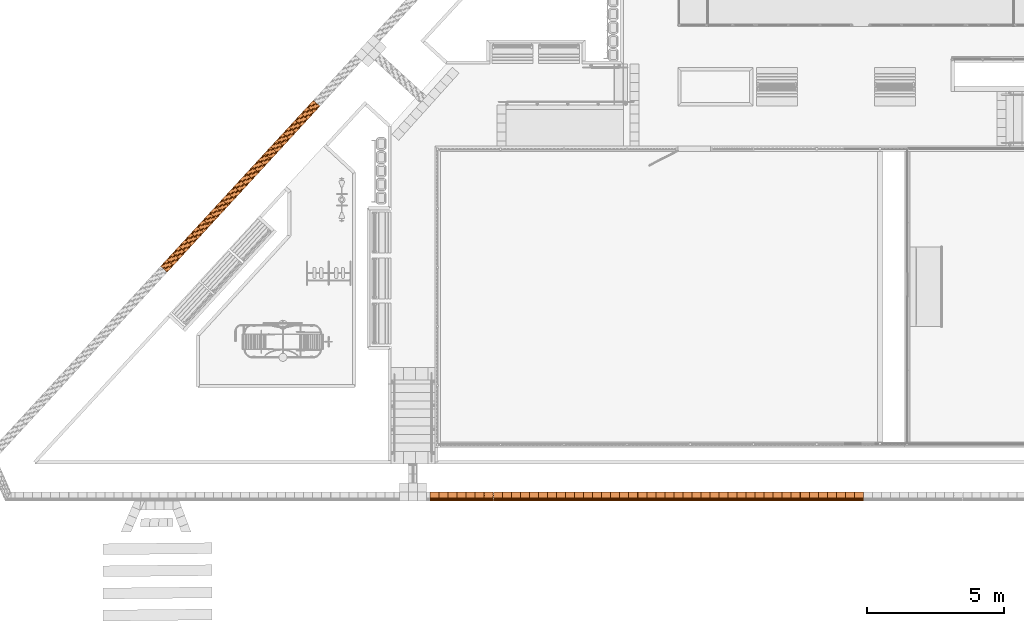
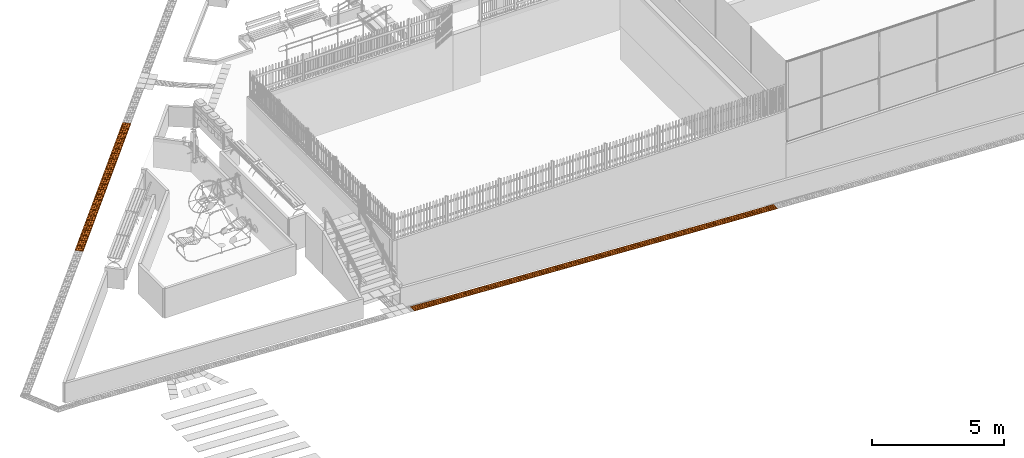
# One storey, part 165 of 237: 73 proxies.
"""IFC2X3 building model written with IfcOpenShell, lengths in millimetres."""

from ifc_helpers import new_model, entity, si_unit, converted_unit, derived_unit, money_unit, direction, frame, origin_with_axes, place, context, subcontext, project, spatial, open_shell, surface_model, source, transform, mapped, type_object, element, save


model = new_model("IFC2X3")

# Units and contexts
model_context = context("Model", 3, precision=0.01, world=origin_with_axes(), true_north=direction((0.0, 1.0)))
body_context = subcontext(model_context, "Body", "Model", "MODEL_VIEW")
ifc_project = project(units=[si_unit("LENGTHUNIT", "METRE", prefix="MILLI"), si_unit("AREAUNIT", "SQUARE_METRE"), si_unit("VOLUMEUNIT", "CUBIC_METRE"), converted_unit("PLANEANGLEUNIT", "DEGREE", entity("IfcPlaneAngleMeasure", 0.0174532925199), si_unit("PLANEANGLEUNIT", "RADIAN"), dimensions=[0, 0, 0, 0, 0, 0, 0]), money_unit("USD"), converted_unit("TIMEUNIT", "Year", entity("IfcTimeMeasure", 31556926.0), si_unit("TIMEUNIT", "SECOND"), dimensions=[0, 0, 1, 0, 0, 0, 0]), si_unit("MASSUNIT", "GRAM", prefix="KILO"), si_unit("THERMODYNAMICTEMPERATUREUNIT", "DEGREE_CELSIUS"), si_unit("LUMINOUSINTENSITYUNIT", "LUMEN"), si_unit("ENERGYUNIT", "JOULE", prefix="MEGA"), derived_unit("THERMALCONDUCTANCEUNIT", [(si_unit("POWERUNIT", "WATT"), 1), (si_unit("LENGTHUNIT", "METRE"), -1), (si_unit("THERMODYNAMICTEMPERATUREUNIT", "KELVIN"), -1)]), derived_unit("SPECIFICHEATCAPACITYUNIT", [(si_unit("ENERGYUNIT", "JOULE"), 1), (si_unit("MASSUNIT", "GRAM", prefix="KILO"), -1), (si_unit("THERMODYNAMICTEMPERATUREUNIT", "KELVIN"), -1)]), derived_unit("MASSDENSITYUNIT", [(si_unit("MASSUNIT", "GRAM", prefix="KILO"), 1), (si_unit("VOLUMEUNIT", "CUBIC_METRE"), -1)])], contexts=[model_context])

# Site, building, storey
site_placement = place(None, origin_with_axes())
site = spatial("IfcSite", under=ifc_project, at=site_placement, Name="Local", CompositionType="ELEMENT")
building_placement = place(site_placement, origin_with_axes())
building = spatial("IfcBuilding", under=site, at=building_placement, Name="Construção", CompositionType="ELEMENT")
storey_placement = place(building_placement, origin_with_axes())
storey = spatial("IfcBuildingStorey", under=building, at=storey_placement, Name="Pavimento Térreo", CompositionType="ELEMENT", Elevation=0.0)

# Proxies
building_element_proxy_type = type_object("IfcBuildingElementProxyType", Name="Piso Direcional 27", PredefinedType="NOTDEFINED")
shared_shape_1 = source(origin_with_axes(), body_context, "Body", "SurfaceModel", [
    surface_model("IfcShellBasedSurfaceModel", [(-0.196792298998, -47.258225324, 4.02371099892), (329.409233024, -47.258225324, 20.1441350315), (329.083567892, -41.665004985, 26.8028426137), (-0.522457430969, -41.665004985, 10.6824185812)], [open_shell([[[0, 1, 2, 3]]])]),
    surface_model("IfcShellBasedSurfaceModel", [(330.060563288, -153.529411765, 6.82671986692), (330.060563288, 176.470588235, 6.82671986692), (329.409233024, 176.470588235, 20.1441350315), (329.409233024, 154.097706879, 20.1441350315), (329.083567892, 148.50448654, 26.8028426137), (329.083567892, 126.131605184, 26.8028426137), (329.409233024, 120.538384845, 20.1441350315), (329.409233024, 70.1994017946, 20.1441350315), (329.083567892, 64.6061814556, 26.8028426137), (329.083567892, 42.2333000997, 26.8028426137), (329.409233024, 36.6400797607, 20.1441350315), (329.409233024, -13.6989032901, 20.1441350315), (329.083567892, -19.2921236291, 26.8028426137), (329.083567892, -41.665004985, 26.8028426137), (329.409233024, -47.258225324, 20.1441350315), (329.409233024, -97.5972083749, 20.1441350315), (329.083567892, -103.190428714, 26.8028426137), (329.083567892, -125.56331007, 26.8028426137), (329.409233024, -131.156530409, 20.1441350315), (329.409233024, -153.529411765, 20.1441350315)], [open_shell([[[0, 1, 2, 3, 4, 5, 6, 7, 8, 9, 10, 11, 12, 13, 14, 15, 16, 17, 18, 19]]])]),
    surface_model("IfcShellBasedSurfaceModel", [(-0.522457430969, -19.2921236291, 10.6824185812), (329.083567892, -19.2921236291, 26.8028426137), (329.409233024, -13.6989032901, 20.1441350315), (-0.196792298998, -13.6989032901, 4.02371099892)], [open_shell([[[0, 1, 2, 3]]])]),
    surface_model("IfcShellBasedSurfaceModel", [(-0.522457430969, -103.190428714, 10.6824185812), (329.083567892, -103.190428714, 26.8028426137), (329.409233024, -97.5972083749, 20.1441350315), (-0.196792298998, -97.5972083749, 4.02371099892)], [open_shell([[[0, 1, 2, 3]]])]),
    surface_model("IfcShellBasedSurfaceModel", [(-0.522457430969, 64.6061814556, 10.6824185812), (329.083567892, 64.6061814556, 26.8028426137), (329.409233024, 70.1994017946, 20.1441350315), (-0.196792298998, 70.1994017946, 4.02371099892)], [open_shell([[[0, 1, 2, 3]]])]),
    surface_model("IfcShellBasedSurfaceModel", [(-0.196792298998, 36.6400797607, 4.02371099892), (329.409233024, 36.6400797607, 20.1441350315), (329.083567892, 42.2333000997, 26.8028426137), (-0.522457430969, 42.2333000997, 10.6824185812)], [open_shell([[[0, 1, 2, 3]]])]),
    surface_model("IfcShellBasedSurfaceModel", [(-0.196792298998, -131.156530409, 4.02371099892), (329.409233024, -131.156530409, 20.1441350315), (329.083567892, -125.56331007, 26.8028426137), (-0.522457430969, -125.56331007, 10.6824185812)], [open_shell([[[0, 1, 2, 3]]])]),
    surface_model("IfcShellBasedSurfaceModel", [(-0.196792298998, 176.470588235, 4.02371099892), (-0.196792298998, 154.097706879, 4.02371099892), (329.409233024, 154.097706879, 20.1441350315), (329.409233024, 176.470588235, 20.1441350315)], [open_shell([[[0, 1, 2, 3]]])]),
    surface_model("IfcShellBasedSurfaceModel", [(-0.196792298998, 120.538384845, 4.02371099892), (329.409233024, 120.538384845, 20.1441350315), (329.083567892, 126.131605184, 26.8028426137), (-0.522457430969, 126.131605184, 10.6824185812)], [open_shell([[[0, 1, 2, 3]]])]),
    surface_model("IfcShellBasedSurfaceModel", [(-0.522457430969, 148.50448654, 10.6824185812), (329.083567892, 148.50448654, 26.8028426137), (329.409233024, 154.097706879, 20.1441350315), (-0.196792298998, 154.097706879, 4.02371099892)], [open_shell([[[0, 1, 2, 3]]])]),
    surface_model("IfcShellBasedSurfaceModel", [(-0.196792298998, 36.6400797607, 4.02371099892), (-0.196792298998, -13.6989032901, 4.02371099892), (329.409233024, -13.6989032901, 20.1441350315), (329.409233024, 36.6400797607, 20.1441350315)], [open_shell([[[0, 1, 2, 3]]])]),
    surface_model("IfcShellBasedSurfaceModel", [(-0.196792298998, 120.538384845, 4.02371099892), (-0.196792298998, 70.1994017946, 4.02371099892), (329.409233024, 70.1994017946, 20.1441350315), (329.409233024, 120.538384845, 20.1441350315)], [open_shell([[[0, 1, 2, 3]]])]),
    surface_model("IfcShellBasedSurfaceModel", [(-0.522457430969, 148.50448654, 10.6824185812), (-0.522457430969, 126.131605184, 10.6824185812), (329.083567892, 126.131605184, 26.8028426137), (329.083567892, 148.50448654, 26.8028426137)], [open_shell([[[0, 1, 2, 3]]])]),
    surface_model("IfcShellBasedSurfaceModel", [(-0.196792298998, 120.538384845, 4.02371099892), (-0.522457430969, 126.131605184, 10.6824185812), (-0.522457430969, 148.50448654, 10.6824185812), (-0.196792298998, 154.097706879, 4.02371099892), (-0.196792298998, 176.470588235, 4.02371099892), (0.454537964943, 176.470588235, -9.29370416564), (0.454537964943, -153.529411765, -9.29370416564), (-0.196792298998, -153.529411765, 4.02371099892), (-0.196792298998, -131.156530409, 4.02371099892), (-0.522457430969, -125.56331007, 10.6824185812), (-0.522457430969, -103.190428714, 10.6824185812), (-0.196792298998, -97.5972083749, 4.02371099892), (-0.196792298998, -47.258225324, 4.02371099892), (-0.522457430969, -41.665004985, 10.6824185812), (-0.522457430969, -19.2921236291, 10.6824185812), (-0.196792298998, -13.6989032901, 4.02371099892), (-0.196792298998, 36.6400797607, 4.02371099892), (-0.522457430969, 42.2333000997, 10.6824185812), (-0.522457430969, 64.6061814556, 10.6824185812), (-0.196792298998, 70.1994017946, 4.02371099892)], [open_shell([[[0, 1, 2, 3, 4, 5, 6, 7, 8, 9, 10, 11, 12, 13, 14, 15, 16, 17, 18, 19]]])]),
    surface_model("IfcShellBasedSurfaceModel", [(329.083567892, -41.665004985, 26.8028426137), (329.083567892, -19.2921236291, 26.8028426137), (-0.522457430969, -19.2921236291, 10.6824185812), (-0.522457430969, -41.665004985, 10.6824185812)], [open_shell([[[0, 1, 2, 3]]])]),
    surface_model("IfcShellBasedSurfaceModel", [(-0.196792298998, -47.258225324, 4.02371099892), (-0.196792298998, -97.5972083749, 4.02371099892), (329.409233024, -97.5972083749, 20.1441350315), (329.409233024, -47.258225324, 20.1441350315)], [open_shell([[[0, 1, 2, 3]]])]),
    surface_model("IfcShellBasedSurfaceModel", [(329.083567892, 42.2333000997, 26.8028426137), (329.083567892, 64.6061814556, 26.8028426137), (-0.522457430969, 64.6061814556, 10.6824185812), (-0.522457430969, 42.2333000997, 10.6824185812)], [open_shell([[[0, 1, 2, 3]]])]),
    surface_model("IfcShellBasedSurfaceModel", [(329.083567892, -125.56331007, 26.8028426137), (329.083567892, -103.190428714, 26.8028426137), (-0.522457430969, -103.190428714, 10.6824185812), (-0.522457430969, -125.56331007, 10.6824185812)], [open_shell([[[0, 1, 2, 3]]])]),
    surface_model("IfcShellBasedSurfaceModel", [(330.060563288, 176.470588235, 6.82671986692), (0.454537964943, 176.470588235, -9.29370416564), (-0.196792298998, 176.470588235, 4.02371099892), (329.409233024, 176.470588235, 20.1441350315)], [open_shell([[[0, 1, 2, 3]]])]),
    surface_model("IfcShellBasedSurfaceModel", [(330.060563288, -153.529411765, 6.82671986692), (0.454537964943, -153.529411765, -9.29370416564), (0.454537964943, 176.470588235, -9.29370416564), (330.060563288, 176.470588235, 6.82671986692)], [open_shell([[[0, 1, 2, 3]]])]),
    surface_model("IfcShellBasedSurfaceModel", [(329.409233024, -153.529411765, 20.1441350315), (329.409233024, -131.156530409, 20.1441350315), (-0.196792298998, -131.156530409, 4.02371099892), (-0.196792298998, -153.529411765, 4.02371099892)], [open_shell([[[0, 1, 2, 3]]])]),
    surface_model("IfcShellBasedSurfaceModel", [(0.454537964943, -153.529411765, -9.29370416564), (330.060563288, -153.529411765, 6.82671986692), (329.409233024, -153.529411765, 20.1441350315), (-0.196792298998, -153.529411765, 4.02371099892)], [open_shell([[[0, 1, 2, 3]]])]),
])
for number, where, z_axis, x_axis, name in (
    (1, (53889.0508566, 10834.0941893, -3763.26854948), (0.0, 0.0, 1.0), (-1.0, 0.0, 0.0), "Objeto-0055"),
    (2, (49922.5960196, 10834.0941893, -3557.23249376), (0.0, 0.0, 1.0), (-1.0, 0.0, 0.0), "Objeto-0055"),
    (3, (49261.3507811, 10834.0941893, -3522.70237891), (0.0, 0.0, 1.0), (-1.0, 0.0, 0.0), "Objeto-0055"),
    (4, (53227.8056181, 10834.0941893, -3728.73843462), (0.0, 0.0, 1.0), (-1.0, 0.0, 0.0), "Objeto-0055"),
    (5, (52897.1829989, 10834.0941893, -3711.4733772), (0.0, 0.0, 1.0), (-1.0, 0.0, 0.0), "Objeto-0055"),
    (6, (52566.5603796, 10834.0941893, -3694.20831977), (0.0, 0.0, 1.0), (-1.0, 0.0, 0.0), "Objeto-0055"),
    (7, (52235.9377604, 10834.0941893, -3676.94326235), (0.0, 0.0, 1.0), (-1.0, 0.0, 0.0), "Objeto-0055"),
    (8, (51905.3151412, 10834.0941893, -3659.67820492), (0.0, 0.0, 1.0), (-1.0, 0.0, 0.0), "Objeto-0055"),
    (9, (51244.0699027, 10834.0941893, -3625.14809007), (0.0, 0.0, 1.0), (-1.0, 0.0, 0.0), "Objeto-0055"),
    (10, (50913.4472834, 10834.0941893, -3607.88303264), (0.0, 0.0, 1.0), (-1.0, 0.0, 0.0), "Objeto-0055"),
    (11, (48269.4829234, 10834.0941893, -3470.90720663), (0.0, 0.0, 1.0), (-1.0, 0.0, 0.0), "Objeto-0055"),
    (12, (47938.8603042, 10834.0941893, -3453.6421492), (0.0, 0.0, 1.0), (-1.0, 0.0, 0.0), "Objeto-0055"),
    (13, (47608.2376849, 10834.0941893, -3436.37709178), (0.0, 0.0, 1.0), (-1.0, 0.0, 0.0), "Objeto-0055"),
    (14, (47277.6150657, 10834.0941893, -3419.11203435), (0.0, 0.0, 1.0), (-1.0, 0.0, 0.0), "Objeto-0055"),
    (15, (46946.9924465, 10834.0941893, -3401.84697693), (0.0, 0.0, 1.0), (-1.0, 0.0, 0.0), "Objeto-0055"),
    (16, (46616.3698272, 10834.0941893, -3384.5819195), (0.0, 0.0, 1.0), (-1.0, 0.0, 0.0), "Objeto-0055"),
    (17, (46285.747208, 10834.0941893, -3367.31686208), (0.0, 0.0, 1.0), (-1.0, 0.0, 0.0), "Objeto-0055"),
    (18, (45955.1245887, 10834.0941893, -3350.05180465), (0.0, 0.0, 1.0), (-1.0, 0.0, 0.0), "Objeto-0055"),
    (19, (57855.5036211, 10834.0941893, -3969.34697953), (0.0, 0.0, 1.0), (-1.0, 0.0, 0.0), "Objeto-0055"),
    (20, (45624.5019695, 10834.0941893, -3332.78674722), (0.0, 0.0, 1.0), (-1.0, 0.0, 0.0), "Objeto-0055"),
    (21, (45293.8793502, 10834.0941893, -3315.5216898), (0.0, 0.0, 1.0), (-1.0, 0.0, 0.0), "Objeto-0055"),
    (22, (44963.256731, 10834.0941893, -3298.25663237), (0.0, 0.0, 1.0), (-1.0, 0.0, 0.0), "Objeto-0055"),
    (23, (44632.6341118, 10834.0941893, -3280.99157495), (0.0, 0.0, 1.0), (-1.0, 0.0, 0.0), "Objeto-0055"),
    (24, (44302.0114925, 10834.0941893, -3263.72651752), (0.0, 0.0, 1.0), (-1.0, 0.0, 0.0), "Objeto-0055"),
    (25, (43971.3888733, 10834.0941893, -3246.4614601), (0.0, 0.0, 1.0), (-1.0, 0.0, 0.0), "Objeto-0055"),
    (26, (43641.782848, 10834.0941893, -3230.34103606), (0.0, 0.0, 1.0), (-1.0, 0.0, 0.0), "Objeto-0055"),
    (27, (43311.1602287, 10834.0941893, -3213.07597864), (0.0, 0.0, 1.0), (-1.0, 0.0, 0.0), "Objeto-0055"),
    (28, (42980.5376095, 10834.0941893, -3195.81092121), (0.0, 0.0, 1.0), (-1.0, 0.0, 0.0), "Objeto-0055"),
    (29, (42649.9149902, 10834.0941893, -3178.54586379), (0.0, 0.0, 1.0), (-1.0, 0.0, 0.0), "Objeto-0055"),
    (30, (42319.292371, 10834.0941893, -3161.28080636), (0.0, 0.0, 1.0), (-1.0, 0.0, 0.0), "Objeto-0055"),
    (31, (50253.2186389, 10834.0941893, -3574.49755119), (0.0, 0.0, 1.0), (-1.0, 0.0, 0.0), "Objeto-0055"),
    (32, (51574.6925219, 10834.0941893, -3642.41314749), (0.0, 0.0, 1.0), (-1.0, 0.0, 0.0), "Objeto-0055"),
    (33, (54550.2960951, 10834.0941893, -3797.79866433), (0.0, 0.0, 1.0), (-1.0, 0.0, 0.0), "Objeto-0055"),
    (34, (48600.1055427, 10834.0941893, -3488.17226406), (0.0, 0.0, 1.0), (-1.0, 0.0, 0.0), "Objeto-0055"),
    (35, (50582.8246642, 10834.0941893, -3590.61797522), (0.0, 0.0, 1.0), (-1.0, 0.0, 0.0), "Objeto-0055"),
    (36, (55211.5413336, 10834.0941893, -3832.32877918), (0.0, 0.0, 1.0), (-1.0, 0.0, 0.0), "Objeto-0055"),
    (37, (54880.9187143, 10834.0941893, -3815.06372175), (0.0, 0.0, 1.0), (-1.0, 0.0, 0.0), "Objeto-0055"),
    (38, (53558.4282374, 10834.0941893, -3746.00349205), (0.0, 0.0, 1.0), (-1.0, 0.0, 0.0), "Objeto-0055"),
    (39, (49591.9734004, 10834.0941893, -3539.96743633), (0.0, 0.0, 1.0), (-1.0, 0.0, 0.0), "Objeto-0055"),
    (40, (54219.6734758, 10834.0941893, -3780.5336069), (0.0, 0.0, 1.0), (-1.0, 0.0, 0.0), "Objeto-0055"),
    (41, (57194.2583827, 10834.0941893, -3934.81686468), (0.0, 0.0, 1.0), (-1.0, 0.0, 0.0), "Objeto-0055"),
    (42, (56864.6544298, 10834.0941893, -3918.65406631), (0.0, 0.0, 1.0), (-1.0, 0.0, 0.0), "Objeto-0055"),
    (43, (56534.0318105, 10834.0941893, -3901.38900888), (0.0, 0.0, 1.0), (-1.0, 0.0, 0.0), "Objeto-0055"),
    (44, (56203.4091913, 10834.0941893, -3884.12395146), (0.0, 0.0, 1.0), (-1.0, 0.0, 0.0), "Objeto-0055"),
    (45, (55872.7865721, 10834.0941893, -3866.85889403), (0.0, 0.0, 1.0), (-1.0, 0.0, 0.0), "Objeto-0055"),
    (46, (55542.1639528, 10834.0941893, -3849.5938366), (0.0, 0.0, 1.0), (-1.0, 0.0, 0.0), "Objeto-0055"),
    (47, (57524.8810019, 10834.0941893, -3952.08192211), (0.0, 0.0, 1.0), (-1.0, 0.0, 0.0), "Objeto-0055"),
    (48, (48930.7281619, 10834.0941893, -3505.43732148), (0.0, 0.0, 1.0), (-1.0, 0.0, 0.0), "Objeto-0055"),
):
    element("IfcBuildingElementProxy", number, at=place(storey_placement, frame(where, z_axis=z_axis, x_axis=x_axis)), inside=storey, type_object=building_element_proxy_type, Name=name, context=body_context, shape_type="MappedRepresentation", body=[
        mapped(shared_shape_1, transform((0.0, 0.0, 0.0))),
    ])
shared_shape_2 = source(origin_with_axes(), body_context, "Body", "SurfaceModel", [
    surface_model("IfcShellBasedSurfaceModel", [(0.126538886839, -47.258225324, 4.02653266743), (329.963703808, -47.258225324, -6.33901782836), (330.173108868, -41.665004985, 0.32435924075), (0.33594394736, -41.665004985, 10.6899097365)], [open_shell([[[0, 1, 2, 3]]])]),
    surface_model("IfcShellBasedSurfaceModel", [(329.544893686, -153.529411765, -19.6657719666), (329.544893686, 176.470588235, -19.6657719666), (329.963703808, 176.470588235, -6.33901782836), (329.963703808, 154.097706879, -6.33901782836), (330.173108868, 148.50448654, 0.32435924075), (330.173108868, 126.131605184, 0.32435924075), (329.963703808, 120.538384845, -6.33901782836), (329.963703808, 70.1994017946, -6.33901782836), (330.173108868, 64.6061814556, 0.32435924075), (330.173108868, 42.2333000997, 0.32435924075), (329.963703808, 36.6400797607, -6.33901782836), (329.963703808, -13.6989032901, -6.33901782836), (330.173108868, -19.2921236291, 0.32435924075), (330.173108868, -41.665004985, 0.32435924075), (329.963703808, -47.258225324, -6.33901782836), (329.963703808, -97.5972083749, -6.33901782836), (330.173108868, -103.190428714, 0.32435924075), (330.173108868, -125.56331007, 0.32435924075), (329.963703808, -131.156530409, -6.33901782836), (329.963703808, -153.529411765, -6.33901782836)], [open_shell([[[0, 1, 2, 3, 4, 5, 6, 7, 8, 9, 10, 11, 12, 13, 14, 15, 16, 17, 18, 19]]])]),
    surface_model("IfcShellBasedSurfaceModel", [(0.33594394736, -19.2921236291, 10.6899097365), (330.173108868, -19.2921236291, 0.32435924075), (329.963703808, -13.6989032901, -6.33901782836), (0.126538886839, -13.6989032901, 4.02653266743)], [open_shell([[[0, 1, 2, 3]]])]),
    surface_model("IfcShellBasedSurfaceModel", [(0.33594394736, -103.190428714, 10.6899097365), (330.173108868, -103.190428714, 0.32435924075), (329.963703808, -97.5972083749, -6.33901782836), (0.126538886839, -97.5972083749, 4.02653266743)], [open_shell([[[0, 1, 2, 3]]])]),
    surface_model("IfcShellBasedSurfaceModel", [(0.33594394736, 64.6061814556, 10.6899097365), (330.173108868, 64.6061814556, 0.32435924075), (329.963703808, 70.1994017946, -6.33901782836), (0.126538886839, 70.1994017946, 4.02653266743)], [open_shell([[[0, 1, 2, 3]]])]),
    surface_model("IfcShellBasedSurfaceModel", [(0.126538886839, 36.6400797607, 4.02653266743), (329.963703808, 36.6400797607, -6.33901782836), (330.173108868, 42.2333000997, 0.32435924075), (0.33594394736, 42.2333000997, 10.6899097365)], [open_shell([[[0, 1, 2, 3]]])]),
    surface_model("IfcShellBasedSurfaceModel", [(0.126538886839, -131.156530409, 4.02653266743), (329.963703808, -131.156530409, -6.33901782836), (330.173108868, -125.56331007, 0.32435924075), (0.33594394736, -125.56331007, 10.6899097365)], [open_shell([[[0, 1, 2, 3]]])]),
    surface_model("IfcShellBasedSurfaceModel", [(0.126538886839, 176.470588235, 4.02653266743), (0.126538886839, 154.097706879, 4.02653266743), (329.963703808, 154.097706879, -6.33901782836), (329.963703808, 176.470588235, -6.33901782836)], [open_shell([[[0, 1, 2, 3]]])]),
    surface_model("IfcShellBasedSurfaceModel", [(0.126538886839, 120.538384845, 4.02653266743), (329.963703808, 120.538384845, -6.33901782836), (330.173108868, 126.131605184, 0.32435924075), (0.33594394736, 126.131605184, 10.6899097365)], [open_shell([[[0, 1, 2, 3]]])]),
    surface_model("IfcShellBasedSurfaceModel", [(0.33594394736, 148.50448654, 10.6899097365), (330.173108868, 148.50448654, 0.32435924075), (329.963703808, 154.097706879, -6.33901782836), (0.126538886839, 154.097706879, 4.02653266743)], [open_shell([[[0, 1, 2, 3]]])]),
    surface_model("IfcShellBasedSurfaceModel", [(0.126538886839, 36.6400797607, 4.02653266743), (0.126538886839, -13.6989032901, 4.02653266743), (329.963703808, -13.6989032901, -6.33901782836), (329.963703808, 36.6400797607, -6.33901782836)], [open_shell([[[0, 1, 2, 3]]])]),
    surface_model("IfcShellBasedSurfaceModel", [(0.126538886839, 120.538384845, 4.02653266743), (0.126538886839, 70.1994017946, 4.02653266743), (329.963703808, 70.1994017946, -6.33901782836), (329.963703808, 120.538384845, -6.33901782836)], [open_shell([[[0, 1, 2, 3]]])]),
    surface_model("IfcShellBasedSurfaceModel", [(0.33594394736, 148.50448654, 10.6899097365), (0.33594394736, 126.131605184, 10.6899097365), (330.173108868, 126.131605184, 0.32435924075), (330.173108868, 148.50448654, 0.32435924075)], [open_shell([[[0, 1, 2, 3]]])]),
    surface_model("IfcShellBasedSurfaceModel", [(0.126538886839, 120.538384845, 4.02653266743), (0.33594394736, 126.131605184, 10.6899097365), (0.33594394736, 148.50448654, 10.6899097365), (0.126538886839, 154.097706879, 4.02653266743), (0.126538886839, 176.470588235, 4.02653266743), (-0.292271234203, 176.470588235, -9.30022147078), (-0.292271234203, -153.529411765, -9.30022147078), (0.126538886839, -153.529411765, 4.02653266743), (0.126538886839, -131.156530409, 4.02653266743), (0.33594394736, -125.56331007, 10.6899097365), (0.33594394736, -103.190428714, 10.6899097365), (0.126538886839, -97.5972083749, 4.02653266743), (0.126538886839, -47.258225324, 4.02653266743), (0.33594394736, -41.665004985, 10.6899097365), (0.33594394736, -19.2921236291, 10.6899097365), (0.126538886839, -13.6989032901, 4.02653266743), (0.126538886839, 36.6400797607, 4.02653266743), (0.33594394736, 42.2333000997, 10.6899097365), (0.33594394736, 64.6061814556, 10.6899097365), (0.126538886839, 70.1994017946, 4.02653266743)], [open_shell([[[0, 1, 2, 3, 4, 5, 6, 7, 8, 9, 10, 11, 12, 13, 14, 15, 16, 17, 18, 19]]])]),
    surface_model("IfcShellBasedSurfaceModel", [(330.173108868, -41.665004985, 0.32435924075), (330.173108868, -19.2921236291, 0.32435924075), (0.33594394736, -19.2921236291, 10.6899097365), (0.33594394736, -41.665004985, 10.6899097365)], [open_shell([[[0, 1, 2, 3]]])]),
    surface_model("IfcShellBasedSurfaceModel", [(0.126538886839, -47.258225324, 4.02653266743), (0.126538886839, -97.5972083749, 4.02653266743), (329.963703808, -97.5972083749, -6.33901782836), (329.963703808, -47.258225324, -6.33901782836)], [open_shell([[[0, 1, 2, 3]]])]),
    surface_model("IfcShellBasedSurfaceModel", [(330.173108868, 42.2333000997, 0.32435924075), (330.173108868, 64.6061814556, 0.32435924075), (0.33594394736, 64.6061814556, 10.6899097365), (0.33594394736, 42.2333000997, 10.6899097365)], [open_shell([[[0, 1, 2, 3]]])]),
    surface_model("IfcShellBasedSurfaceModel", [(330.173108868, -125.56331007, 0.32435924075), (330.173108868, -103.190428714, 0.32435924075), (0.33594394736, -103.190428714, 10.6899097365), (0.33594394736, -125.56331007, 10.6899097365)], [open_shell([[[0, 1, 2, 3]]])]),
    surface_model("IfcShellBasedSurfaceModel", [(329.544893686, 176.470588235, -19.6657719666), (-0.292271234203, 176.470588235, -9.30022147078), (0.126538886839, 176.470588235, 4.02653266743), (329.963703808, 176.470588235, -6.33901782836)], [open_shell([[[0, 1, 2, 3]]])]),
    surface_model("IfcShellBasedSurfaceModel", [(329.544893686, -153.529411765, -19.6657719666), (-0.292271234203, -153.529411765, -9.30022147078), (-0.292271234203, 176.470588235, -9.30022147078), (329.544893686, 176.470588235, -19.6657719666)], [open_shell([[[0, 1, 2, 3]]])]),
    surface_model("IfcShellBasedSurfaceModel", [(329.963703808, -153.529411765, -6.33901782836), (329.963703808, -131.156530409, -6.33901782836), (0.126538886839, -131.156530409, 4.02653266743), (0.126538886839, -153.529411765, 4.02653266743)], [open_shell([[[0, 1, 2, 3]]])]),
    surface_model("IfcShellBasedSurfaceModel", [(-0.292271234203, -153.529411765, -9.30022147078), (329.544893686, -153.529411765, -19.6657719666), (329.963703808, -153.529411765, -6.33901782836), (0.126538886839, -153.529411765, 4.02653266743)], [open_shell([[[0, 1, 2, 3]]])]),
])
for number, where, z_axis, x_axis, name in (
    (49, (35814.5461743, 23046.4772568, -1940.08063893), (0.0, 0.0, 1.0), (-0.677327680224, -0.735681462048, 0.0), "Objeto-0055"),
    (50, (32458.1271906, 19400.8928561, -2098.01059707), (0.0, 0.0, 1.0), (-0.677327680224, -0.735681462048, 0.0), "Objeto-0055"),
    (51, (32681.9406795, 19643.9885387, -2087.16307401), (0.0, 0.0, 1.0), (-0.677327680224, -0.735681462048, 0.0), "Objeto-0055"),
    (52, (32905.7541684, 19887.0842212, -2076.31555095), (0.0, 0.0, 1.0), (-0.677327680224, -0.735681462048, 0.0), "Objeto-0055"),
    (53, (33129.5676573, 20130.1799038, -2065.4680279), (0.0, 0.0, 1.0), (-0.677327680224, -0.735681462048, 0.0), "Objeto-0055"),
    (54, (33353.3811462, 20373.2755864, -2054.62050484), (0.0, 0.0, 1.0), (-0.677327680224, -0.735681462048, 0.0), "Objeto-0055"),
    (55, (33576.788988, 20615.9306741, -2046.76108234), (0.0, 0.0, 1.0), (-0.677327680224, -0.735681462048, 0.0), "Objeto-0055"),
    (56, (33800.6024769, 20859.0263567, -2035.91355928), (0.0, 0.0, 1.0), (-0.677327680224, -0.735681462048, 0.0), "Objeto-0055"),
    (57, (34024.4159658, 21102.1220392, -2025.06603622), (0.0, 0.0, 1.0), (-0.677327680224, -0.735681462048, 0.0), "Objeto-0055"),
    (58, (34248.2294547, 21345.2177218, -2014.21851316), (0.0, 0.0, 1.0), (-0.677327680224, -0.735681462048, 0.0), "Objeto-0055"),
    (59, (34472.0429436, 21588.3134044, -2003.37099011), (0.0, 0.0, 1.0), (-0.677327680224, -0.735681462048, 0.0), "Objeto-0055"),
    (60, (34695.8564325, 21831.4090869, -1992.52346705), (0.0, 0.0, 1.0), (-0.677327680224, -0.735681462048, 0.0), "Objeto-0055"),
    (61, (34919.6699214, 22074.5047695, -1981.67594399), (0.0, 0.0, 1.0), (-0.677327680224, -0.735681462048, 0.0), "Objeto-0055"),
    (62, (35143.4834103, 22317.6004521, -1970.82842093), (0.0, 0.0, 1.0), (-0.677327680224, -0.735681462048, 0.0), "Objeto-0055"),
    (63, (35367.2968992, 22560.6961346, -1959.98089788), (0.0, 0.0, 1.0), (-0.677327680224, -0.735681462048, 0.0), "Objeto-0055"),
    (64, (35591.1103881, 22803.7918172, -1949.13337482), (0.0, 0.0, 1.0), (-0.677327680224, -0.735681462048, 0.0), "Objeto-0055"),
    (65, (36038.3596632, 23289.5729394, -1929.23311587), (0.0, 0.0, 1.0), (-0.677327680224, -0.735681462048, 0.0), "Objeto-0055"),
    (66, (36262.1731521, 23532.668622, -1918.38559281), (0.0, 0.0, 1.0), (-0.677327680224, -0.735681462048, 0.0), "Objeto-0055"),
    (67, (36485.986641, 23775.7643045, -1907.53806975), (0.0, 0.0, 1.0), (-0.677327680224, -0.735681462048, 0.0), "Objeto-0055"),
    (68, (36709.8001299, 24018.8599871, -1896.6905467), (0.0, 0.0, 1.0), (-0.677327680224, -0.735681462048, 0.0), "Objeto-0055"),
    (69, (36933.6136188, 24261.9556697, -1885.84302364), (0.0, 0.0, 1.0), (-0.677327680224, -0.735681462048, 0.0), "Objeto-0055"),
    (70, (37157.4271077, 24505.0513522, -1874.99550058), (0.0, 0.0, 1.0), (-0.677327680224, -0.735681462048, 0.0), "Objeto-0055"),
    (71, (37381.2405967, 24748.1470348, -1864.14797752), (0.0, 0.0, 1.0), (-0.677327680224, -0.735681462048, 0.0), "Objeto-0055"),
    (72, (37605.0540856, 24991.2427174, -1853.30045447), (0.0, 0.0, 1.0), (-0.677327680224, -0.735681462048, 0.0), "Objeto-0055"),
    (73, (37828.8675745, 25234.3383999, -1842.45293141), (0.0, 0.0, 1.0), (-0.677327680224, -0.735681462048, 0.0), "Objeto-0055"),
):
    element("IfcBuildingElementProxy", number, at=place(storey_placement, frame(where, z_axis=z_axis, x_axis=x_axis)), inside=storey, type_object=building_element_proxy_type, Name=name, context=body_context, shape_type="MappedRepresentation", body=[
        mapped(shared_shape_2, transform((0.0, 0.0, 0.0))),
    ])

save(model, "model.ifc")
